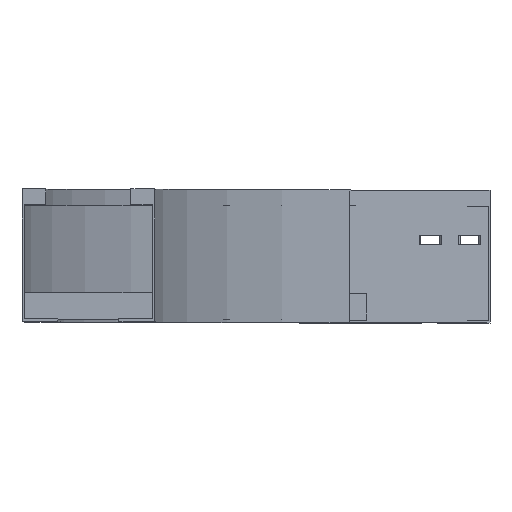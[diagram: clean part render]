
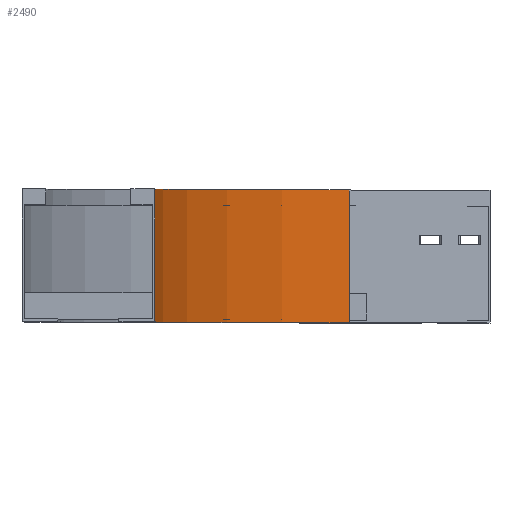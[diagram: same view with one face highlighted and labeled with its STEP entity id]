
A CAD part, top view. The second image highlights one B-rep face of the part: STEP entity #2490.
In plain terms, the highlighted cylindrical face has radius 500 mm (diameter 1000 mm), a partial arc.
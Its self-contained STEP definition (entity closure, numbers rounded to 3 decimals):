
#24 = EDGE_CURVE ( 'NONE', #3728, #63, #39, .T. ) ;
#39 = CIRCLE ( 'NONE', #292, 500. ) ;
#63 = VERTEX_POINT ( 'NONE', #2545 ) ;
#122 = CARTESIAN_POINT ( 'NONE',  ( 500., 0., -150. ) ) ;
#218 = DIRECTION ( 'NONE',  ( 0., 1., 0. ) ) ;
#266 = CARTESIAN_POINT ( 'NONE',  ( 500., 0., -150. ) ) ;
#285 = AXIS2_PLACEMENT_3D ( 'NONE', #977, #3061, #3363 ) ;
#292 = AXIS2_PLACEMENT_3D ( 'NONE', #122, #2095, #3298 ) ;
#421 = VERTEX_POINT ( 'NONE', #2045 ) ;
#555 = FACE_OUTER_BOUND ( 'NONE', #3062, .T. ) ;
#592 = CARTESIAN_POINT ( 'NONE',  ( 0., 100., -150. ) ) ;
#892 = VERTEX_POINT ( 'NONE', #592 ) ;
#953 = ORIENTED_EDGE ( 'NONE', *, *, #3333, .F. ) ;
#977 = CARTESIAN_POINT ( 'NONE',  ( 500., 100., -150. ) ) ;
#1023 = LINE ( 'NONE', #2211, #1876 ) ;
#1043 = DIRECTION ( 'NONE',  ( 0., 1., 0. ) ) ;
#1564 = CARTESIAN_POINT ( 'NONE',  ( 0., 0., -150. ) ) ;
#1687 = CARTESIAN_POINT ( 'NONE',  ( 146.447, 0., -503.553 ) ) ;
#1702 = DIRECTION ( 'NONE',  ( 0., 0., -1. ) ) ;
#1876 = VECTOR ( 'NONE', #1043, 1000. ) ;
#1941 = CIRCLE ( 'NONE', #285, 500. ) ;
#1962 = ORIENTED_EDGE ( 'NONE', *, *, #2239, .F. ) ;
#2045 = CARTESIAN_POINT ( 'NONE',  ( 146.447, 100., -503.553 ) ) ;
#2095 = DIRECTION ( 'NONE',  ( 0., -1., 0. ) ) ;
#2211 = CARTESIAN_POINT ( 'NONE',  ( 0., 0., -150. ) ) ;
#2239 = EDGE_CURVE ( 'NONE', #892, #421, #1941, .T. ) ;
#2258 = VECTOR ( 'NONE', #218, 1000. ) ;
#2339 = DIRECTION ( 'NONE',  ( 0., -1., 0. ) ) ;
#2490 = ADVANCED_FACE ( 'NONE', ( #555 ), #2628, .F. ) ;
#2545 = CARTESIAN_POINT ( 'NONE',  ( 146.447, 0., -503.553 ) ) ;
#2628 = CYLINDRICAL_SURFACE ( 'NONE', #3201, 500. ) ;
#3061 = DIRECTION ( 'NONE',  ( 0., -1., 0. ) ) ;
#3062 = EDGE_LOOP ( 'NONE', ( #1962, #953, #3682, #3491 ) ) ;
#3111 = LINE ( 'NONE', #1687, #2258 ) ;
#3201 = AXIS2_PLACEMENT_3D ( 'NONE', #266, #2339, #1702 ) ;
#3298 = DIRECTION ( 'NONE',  ( -1., 0., 0. ) ) ;
#3333 = EDGE_CURVE ( 'NONE', #3728, #892, #1023, .T. ) ;
#3363 = DIRECTION ( 'NONE',  ( -1., 0., 0. ) ) ;
#3491 = ORIENTED_EDGE ( 'NONE', *, *, #3840, .T. ) ;
#3682 = ORIENTED_EDGE ( 'NONE', *, *, #24, .T. ) ;
#3728 = VERTEX_POINT ( 'NONE', #1564 ) ;
#3840 = EDGE_CURVE ( 'NONE', #63, #421, #3111, .T. ) ;
